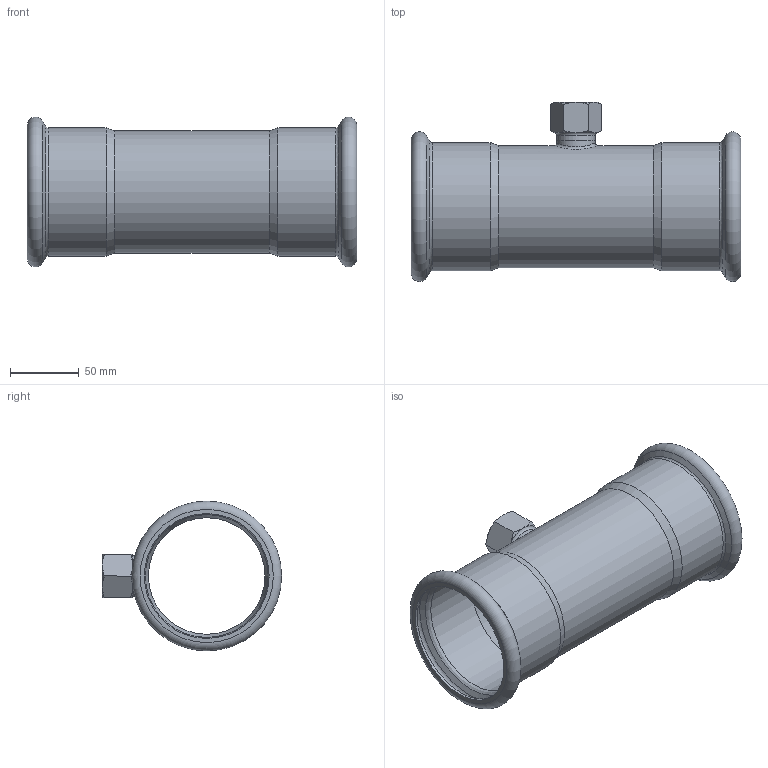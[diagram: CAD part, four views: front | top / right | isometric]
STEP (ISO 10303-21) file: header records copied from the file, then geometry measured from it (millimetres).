
FILE_DESCRIPTION((''),'2;1');
FILE_NAME('G:\Technics\CAD\Bauteile\089\69130G893489(1).stp','2008-03-14T10:50:58',('herberg'),(''),'Autodesk Inventor 2008','Autodesk Inventor 2008','');
FILE_SCHEMA(('AUTOMOTIVE_DESIGN { 1 0 10303 214 1 1 1 1 }'));
Length unit declared in the file: millimetre
Products named in the file (3): 69130G893489(1); LM_69130892889(0); IG2834(1)
Assembly tree (2 placements, depth 2):
  69130G893489(1)
    LM_69130892889(0)
    IG2834(1)
Bounding box: 240 x 130.55 x 109.1 mm (x, y, z)
Volume: 157276.9 mm3; surface area: 154275.1 mm2
Topology: 2 solids, 2 shells, 59 faces, 125 edges, 73 vertices
Faces by surface type: cone 21, plane 13, cylinder 11, bspline 10, torus 4
Full cylindrical faces by diameter (mm): 24 x1, 28 x2, 84.9 x1, 88.9 x1, 89.5 x2, 91 x2, 93.5 x2
Entity records: 3118 total; most frequent: CARTESIAN_POINT 2028, DIRECTION 214, ORIENTED_EDGE 170, AXIS2_PLACEMENT_3D 104, EDGE_LOOP 100, EDGE_CURVE 85, VERTEX_POINT 65, FACE_OUTER_BOUND 59
